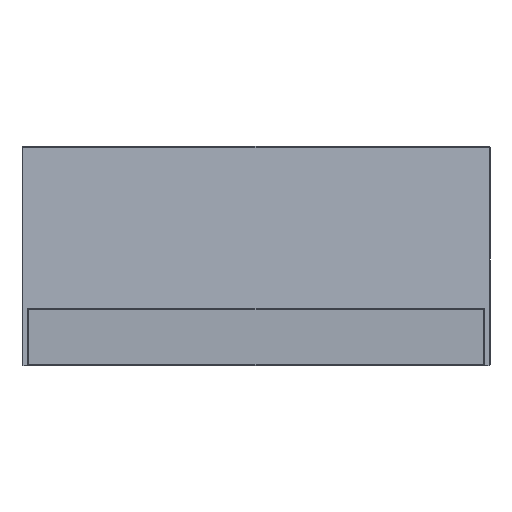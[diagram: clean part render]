
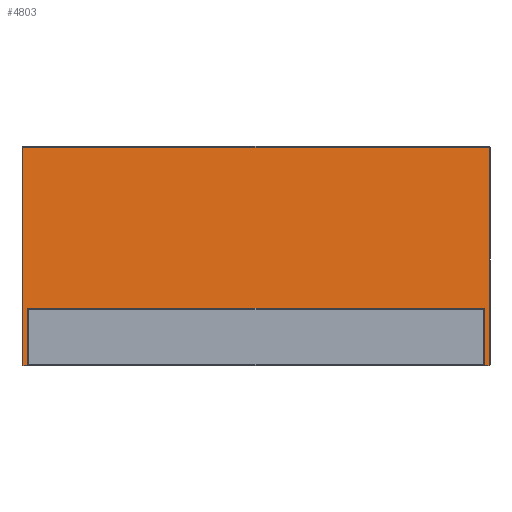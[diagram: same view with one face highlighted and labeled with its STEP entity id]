
A CAD part, left-side view. The second image highlights one B-rep face of the part: STEP entity #4803.
In plain terms, the highlighted planar face has unit normal (-0.998, 0, 0.07).
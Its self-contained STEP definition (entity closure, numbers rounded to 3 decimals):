
#4803=ADVANCED_FACE('',(#8780),#8782,.T.);
#8780=FACE_BOUND('',#8781,.T.);
#8781=EDGE_LOOP('',(#11853,#11854,#11855,#11856,#11857,#11858,#11859,#11860,#11861,
#11862,#11863,#11864));
#8782=PLANE('',#8783);
#8783=AXIS2_PLACEMENT_3D('',#8784,#8785,#8786);
#8784=CARTESIAN_POINT('',(-5.565,5.125,-14.508));
#8785=DIRECTION('',(-0.998,0.,0.07));
#8786=DIRECTION('',(0.,-1.,0.));
#11853=ORIENTED_EDGE('',*,*,#13217,.F.);
#11854=ORIENTED_EDGE('',*,*,#13218,.F.);
#11855=ORIENTED_EDGE('',*,*,#13219,.F.);
#11856=ORIENTED_EDGE('',*,*,#13220,.F.);
#11857=ORIENTED_EDGE('',*,*,#13221,.T.);
#11858=ORIENTED_EDGE('',*,*,#13222,.T.);
#11859=ORIENTED_EDGE('',*,*,#13201,.F.);
#11860=ORIENTED_EDGE('',*,*,#13223,.F.);
#11861=ORIENTED_EDGE('',*,*,#13224,.T.);
#11862=ORIENTED_EDGE('',*,*,#13225,.F.);
#11863=ORIENTED_EDGE('',*,*,#13226,.F.);
#11864=ORIENTED_EDGE('',*,*,#13227,.F.);
#13201=EDGE_CURVE('',#15153,#15151,#15155,.T.);
#13217=EDGE_CURVE('',#15179,#15180,#15181,.F.);
#13218=EDGE_CURVE('',#15182,#15179,#15183,.F.);
#13219=EDGE_CURVE('',#15184,#15182,#15185,.T.);
#13220=EDGE_CURVE('',#15186,#15184,#15187,.T.);
#13221=EDGE_CURVE('',#15186,#15188,#15189,.T.);
#13222=EDGE_CURVE('',#15188,#15151,#15190,.T.);
#13223=EDGE_CURVE('',#15191,#15153,#15192,.T.);
#13224=EDGE_CURVE('',#15191,#15193,#15194,.T.);
#13225=EDGE_CURVE('',#15195,#15193,#15196,.F.);
#13226=EDGE_CURVE('',#15197,#15195,#15198,.T.);
#13227=EDGE_CURVE('',#15180,#15197,#15199,.T.);
#15151=VERTEX_POINT('',#20092);
#15153=VERTEX_POINT('',#20097);
#15155=LINE('',#20102,#20103);
#15179=VERTEX_POINT('',#20162);
#15180=VERTEX_POINT('',#20163);
#15181=LINE('',#20164,#20165);
#15182=VERTEX_POINT('',#20167);
#15183=(BOUNDED_CURVE()B_SPLINE_CURVE(3,
(#20168,#20169,#20170,#20171),
.UNSPECIFIED.,.F.,.F.)B_SPLINE_CURVE_WITH_KNOTS((4,4),
(0.,1.),
.UNSPECIFIED.)CURVE()GEOMETRIC_REPRESENTATION_ITEM()RATIONAL_B_SPLINE_CURVE((1.,
0.805,0.805,1.))REPRESENTATION_ITEM(''));
#15184=VERTEX_POINT('',#20172);
#15185=LINE('',#20173,#20174);
#15186=VERTEX_POINT('',#20176);
#15187=(BOUNDED_CURVE()B_SPLINE_CURVE(3,
(#20177,#20178,#20179,#20180),
.UNSPECIFIED.,.F.,.F.)B_SPLINE_CURVE_WITH_KNOTS((4,4),
(0.,1.),
.UNSPECIFIED.)CURVE()GEOMETRIC_REPRESENTATION_ITEM()RATIONAL_B_SPLINE_CURVE((1.,
0.805,0.805,1.))REPRESENTATION_ITEM(''));
#15188=VERTEX_POINT('',#20181);
#15189=LINE('',#20182,#20183);
#15190=LINE('',#20185,#20186);
#15191=VERTEX_POINT('',#20188);
#15192=LINE('',#20189,#20190);
#15193=VERTEX_POINT('',#20192);
#15194=LINE('',#20193,#20194);
#15195=VERTEX_POINT('',#20196);
#15196=(BOUNDED_CURVE()B_SPLINE_CURVE(3,
(#20197,#20198,#20199,#20200),
.UNSPECIFIED.,.F.,.F.)B_SPLINE_CURVE_WITH_KNOTS((4,4),
(0.,1.),
.UNSPECIFIED.)CURVE()GEOMETRIC_REPRESENTATION_ITEM()RATIONAL_B_SPLINE_CURVE((1.,
0.805,0.805,1.))REPRESENTATION_ITEM(''));
#15197=VERTEX_POINT('',#20201);
#15198=LINE('',#20202,#20203);
#15199=(BOUNDED_CURVE()B_SPLINE_CURVE(3,
(#20205,#20206,#20207,#20208),
.UNSPECIFIED.,.F.,.F.)B_SPLINE_CURVE_WITH_KNOTS((4,4),
(0.,1.),
.UNSPECIFIED.)CURVE()GEOMETRIC_REPRESENTATION_ITEM()RATIONAL_B_SPLINE_CURVE((1.,
0.805,0.805,1.))REPRESENTATION_ITEM(''));
#20092=CARTESIAN_POINT('',(-4.216,-5.105,4.781));
#20097=CARTESIAN_POINT('',(-4.216,5.105,4.781));
#20102=CARTESIAN_POINT('',(-4.216,5.105,4.781));
#20103=VECTOR('',#20104,1.);
#20104=DIRECTION('',(0.,-1.,0.));
#20162=CARTESIAN_POINT('',(-4.463,-4.98,1.25));
#20163=CARTESIAN_POINT('',(-4.463,4.98,1.25));
#20164=CARTESIAN_POINT('',(-4.463,4.98,1.25));
#20165=VECTOR('',#20166,1.);
#20166=DIRECTION('',(0.,-1.,0.));
#20167=CARTESIAN_POINT('',(-4.464,-5.,1.23));
#20168=CARTESIAN_POINT('',(-4.463,-4.98,1.25));
#20169=CARTESIAN_POINT('',(-4.463,-4.992,1.25));
#20170=CARTESIAN_POINT('',(-4.463,-5.,1.242));
#20171=CARTESIAN_POINT('',(-4.464,-5.,1.23));
#20172=CARTESIAN_POINT('',(-4.549,-5.,0.02));
#20173=CARTESIAN_POINT('',(-4.549,-5.,0.02));
#20174=VECTOR('',#20175,1.);
#20175=DIRECTION('',(0.07,0.,0.998));
#20176=CARTESIAN_POINT('',(-4.55,-4.98,0.));
#20177=CARTESIAN_POINT('',(-4.55,-4.98,0.));
#20178=CARTESIAN_POINT('',(-4.55,-4.992,0.));
#20179=CARTESIAN_POINT('',(-4.549,-5.,0.008));
#20180=CARTESIAN_POINT('',(-4.549,-5.,0.02));
#20181=CARTESIAN_POINT('',(-4.55,-5.105,0.));
#20182=CARTESIAN_POINT('',(-4.55,-4.98,0.));
#20183=VECTOR('',#20184,1.);
#20184=DIRECTION('',(0.,-1.,0.));
#20185=CARTESIAN_POINT('',(-4.55,-5.105,0.));
#20186=VECTOR('',#20187,1.);
#20187=DIRECTION('',(0.07,0.,0.998));
#20188=CARTESIAN_POINT('',(-4.55,5.105,0.));
#20189=CARTESIAN_POINT('',(-4.55,5.105,0.));
#20190=VECTOR('',#20191,1.);
#20191=DIRECTION('',(0.07,0.,0.998));
#20192=CARTESIAN_POINT('',(-4.55,4.98,0.));
#20193=CARTESIAN_POINT('',(-4.55,5.105,0.));
#20194=VECTOR('',#20195,1.);
#20195=DIRECTION('',(0.,-1.,0.));
#20196=CARTESIAN_POINT('',(-4.549,5.,0.02));
#20197=CARTESIAN_POINT('',(-4.55,4.98,0.));
#20198=CARTESIAN_POINT('',(-4.55,4.992,0.));
#20199=CARTESIAN_POINT('',(-4.549,5.,0.008));
#20200=CARTESIAN_POINT('',(-4.549,5.,0.02));
#20201=CARTESIAN_POINT('',(-4.464,5.,1.23));
#20202=CARTESIAN_POINT('',(-4.464,5.,1.23));
#20203=VECTOR('',#20204,1.);
#20204=DIRECTION('',(-0.07,0.,-0.998));
#20205=CARTESIAN_POINT('',(-4.463,4.98,1.25));
#20206=CARTESIAN_POINT('',(-4.463,4.992,1.25));
#20207=CARTESIAN_POINT('',(-4.463,5.,1.242));
#20208=CARTESIAN_POINT('',(-4.464,5.,1.23));
